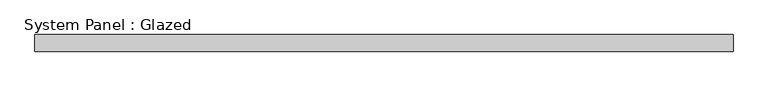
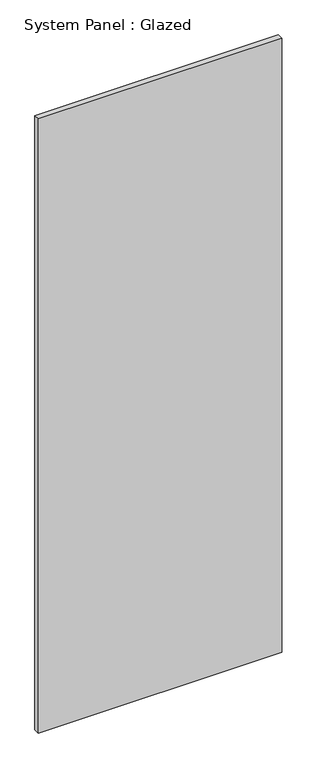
"""IFC4 building model written with IfcOpenShell, lengths in millimetres: plate geometry, System Panel : Glazed."""

from ifc_helpers import new_model, si_unit, origin, origin_with_axes, place, context, project, spatial, polyline, outline, extrude, source, transform, mapped, element, save


def system_panel_glazed_e98fd373(model_context):
    return source(origin(), model_context, "Body", "SweptSolid", [
        extrude(outline(polyline([(524.9276336, -44.45), (-524.9276336, -44.45), (-524.9276336, -19.05), (524.9276336, -19.05), (524.9276336, -44.45)])), origin_with_axes(), (0.0, 0.0, 1.0), 2800.0),
    ])


if __name__ == "__main__":
    model = new_model("IFC4")
    model_context = context("Model", 3, world=origin())
    ifc_project = project(units=[si_unit("LENGTHUNIT", "METRE", prefix="MILLI")], contexts=[model_context])
    site = spatial("IfcSite", under=ifc_project)
    building = spatial("IfcBuilding", under=site)
    placement = place(None, origin())
    system_panel_glazed_shape = system_panel_glazed_e98fd373(model_context)
    element("IfcPlate", 1, ObjectType="System Panel : Glazed", at=placement, inside=building, context=model_context, shape_type="MappedRepresentation", body=[
        mapped(system_panel_glazed_shape, transform((0.0, 0.0, 0.0), x_axis=(1.0, 0.0, 0.0), y_axis=(0.0, 1.0, 0.0), z_axis=(0.0, 0.0, 1.0))),
    ])
    save(model, "model.ifc")
